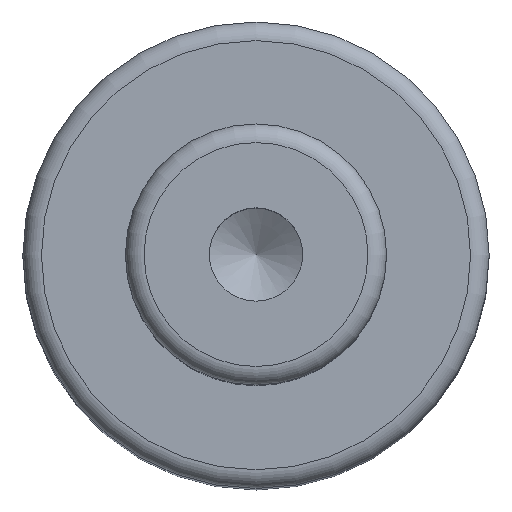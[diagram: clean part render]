
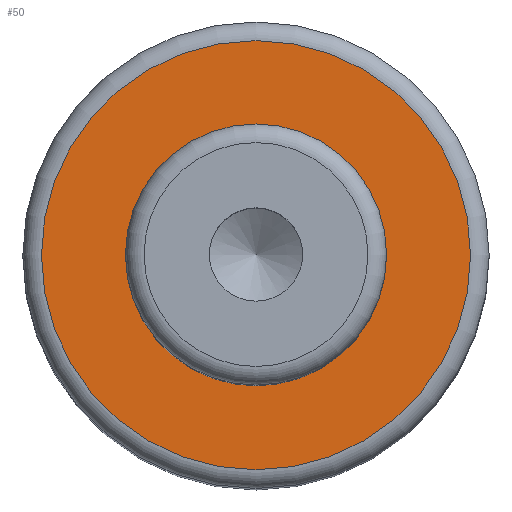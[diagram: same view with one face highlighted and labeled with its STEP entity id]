
A CAD part, top view. The second image highlights one B-rep face of the part: STEP entity #50.
In plain terms, the highlighted planar face has unit normal (0, 0, 1).
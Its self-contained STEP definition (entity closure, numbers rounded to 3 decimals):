
#40=PLANE('',#179);
#50=ADVANCED_FACE('',(#72,#73),#40,.F.);
#72=FACE_BOUND('',#96,.T.);
#73=FACE_BOUND('',#97,.T.);
#96=EDGE_LOOP('',(#118));
#97=EDGE_LOOP('',(#119));
#118=ORIENTED_EDGE('',*,*,#149,.F.);
#119=ORIENTED_EDGE('',*,*,#148,.T.);
#135=VERTEX_POINT('',#256);
#136=VERTEX_POINT('',#259);
#148=EDGE_CURVE('',#135,#135,#159,.T.);
#149=EDGE_CURVE('',#136,#136,#160,.T.);
#159=CIRCLE('',#176,7.);
#160=CIRCLE('',#178,11.5);
#176=AXIS2_PLACEMENT_3D('',#255,#213,#214);
#178=AXIS2_PLACEMENT_3D('',#258,#217,#218);
#179=AXIS2_PLACEMENT_3D('',#260,#219,#220);
#213=DIRECTION('',(0.,0.,-1.));
#214=DIRECTION('',(-1.,0.,0.));
#217=DIRECTION('',(0.,0.,-1.));
#218=DIRECTION('',(-1.,0.,0.));
#219=DIRECTION('',(0.,0.,-1.));
#220=DIRECTION('',(-1.,0.,0.));
#255=CARTESIAN_POINT('',(0.,0.,49.));
#256=CARTESIAN_POINT('',(-7.,0.,49.));
#258=CARTESIAN_POINT('',(0.,0.,49.));
#259=CARTESIAN_POINT('',(-11.5,0.,49.));
#260=CARTESIAN_POINT('',(7.,0.,49.));
